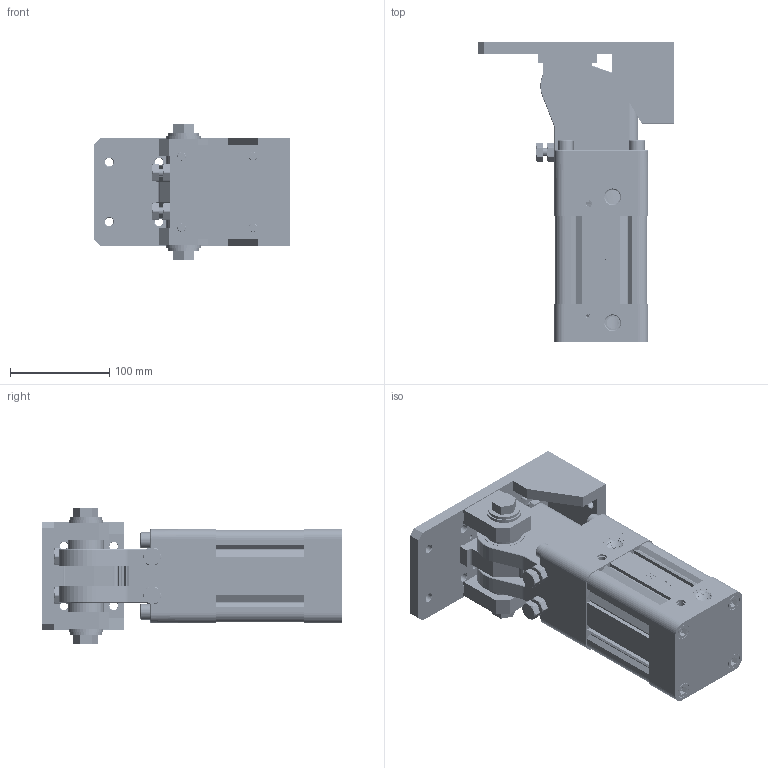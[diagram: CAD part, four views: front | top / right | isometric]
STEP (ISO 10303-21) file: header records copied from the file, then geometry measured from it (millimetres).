
FILE_DESCRIPTION(/* description */ (''),/* implementation_level */ '2;1');
FILE_NAME(/* name */ 'DHR2C-80M50PPV-ZG-LB.stp',/* time_stamp */ '2025-06-12T08:23:34+08:00',/* author */ (''),/* organization */ (''),/* preprocessor_version */ 'ST-DEVELOPER v15',/* originating_system */ 'SIEMENS PLM Software NX 10.0',/* authorisation */ '');
FILE_SCHEMA (('AP203_CONFIGURATION_CONTROLLED_3D_DESIGN_OF_MECHANICAL_PARTS_AND_ASSEMBLIES_MIM_LF { 1 0 10303 403 2 1 2}'));
Products named in the file (1): Admi31B8C635pvjc
Bounding box: 197 x 302 x 138 mm (x, y, z)
Volume: 2568320.3 mm3; surface area: 476711 mm2
Topology: 70 solids, 74 shells, 2240 faces, 5585 edges, 3685 vertices
Faces by surface type: plane 1058, cylinder 545, extrusion 305, cone 227, bspline 78, torus 27
Full cylindrical faces by diameter (mm): 0.995 x1, 1.021 x1, 3 x2, 3.3 x2, 4.2 x4, 5 x17, 6 x20, 6.1 x6, 6.4 x5, 6.5 x12, 6.8 x2, 8 x16, 8.5 x28, 8.7 x4, 9.75 x13, 10 x94, 10.5 x13, 10.7 x4, 12 x2, 13 x6, 14 x8, 15 x8, 16 x4, 16.3 x8, 16.5 x2, 20 x10, 23 x2, 25 x2, 25.2 x1, 29 x1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
Entity records: 155854 total; most frequent: CARTESIAN_POINT 109707, ORIENTED_EDGE 9332, DIRECTION 8171, EDGE_CURVE 4666, VERTEX_POINT 3304, EDGE_LOOP 2895, AXIS2_PLACEMENT_3D 2835, VECTOR 2501
